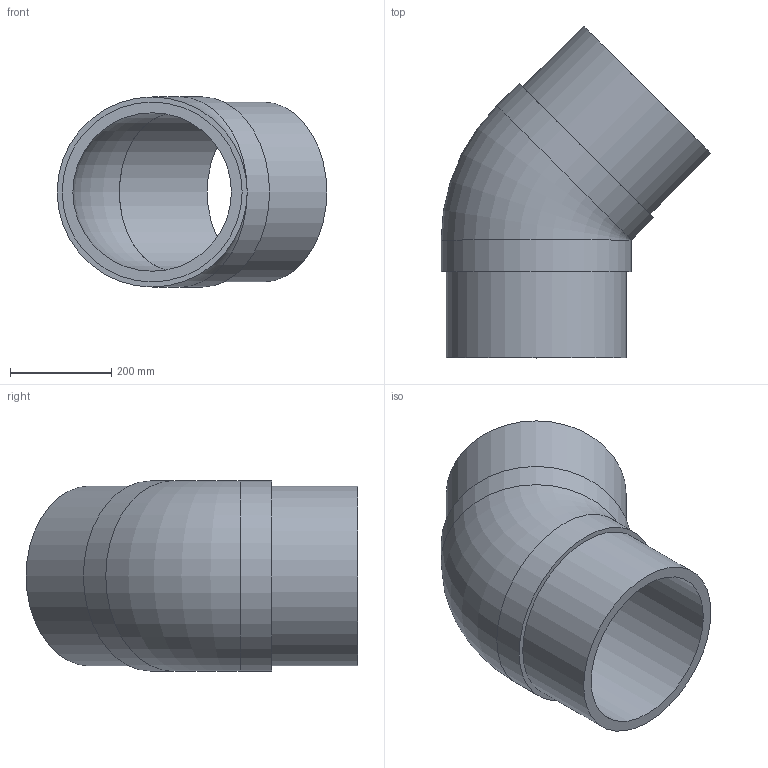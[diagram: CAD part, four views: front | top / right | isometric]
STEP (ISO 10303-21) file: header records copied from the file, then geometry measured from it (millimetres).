
FILE_DESCRIPTION(('Beschreibung'),'1');
FILE_NAME('V:/Ziel/25.15.01.063_SDR17_PE100_355.STP', '2014-09-15T05:56:23',('Author'), ('Organization'), 'KCM Version 1.1.794.0', 'Kubotek KeyCreator', 'Authorization');
FILE_SCHEMA(('CONFIG_CONTROL_DESIGN'));
Length unit declared in the file: millimetre
Bounding box: 532.21 x 654.71 x 375 mm (x, y, z)
Volume: 16558190 mm3; surface area: 1369610 mm2
Topology: 1 solids, 1 shells, 17 faces, 60 edges, 67 vertices
Faces by surface type: plane 6, cylinder 5, cone 3, torus 2, bspline 1
Full cylindrical faces by diameter (mm): 312.6 x1, 312.8 x2, 355 x2
Entity records: 677 total; most frequent: CARTESIAN_POINT 115, DIRECTION 109, ORIENTED_EDGE 78, AXIS2_PLACEMENT_3D 40, EDGE_CURVE 39, VECTOR 29, LINE 29, VERTEX_POINT 28
